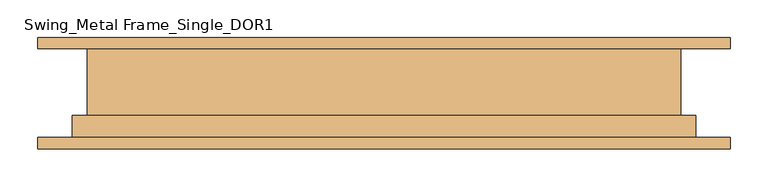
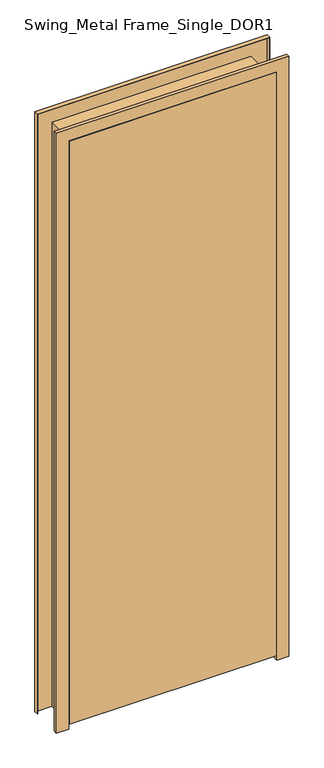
"""IFC4 building model written with IfcOpenShell, lengths in millimetres: door geometry, Swing_Metal Frame_Single_DOR1 : 2040h x 820 (2110x920 STUD)."""

from ifc_helpers import new_model, si_unit, frame, origin, place, context, project, spatial, polyline, outline, extrude, faceted_brep, source, transform, mapped, element, save


def swing_metal_frame_single_dor1_f98e1507(model_context):
    return source(origin(), model_context, "Body", "SolidModel", [
        extrude(outline(polyline([(410.0, -74.0), (-410.0, -74.0), (-410.0, -34.0), (410.0, -34.0), (410.0, -74.0)])), frame((0.0, 0.0, 20.0), z_axis=(0.0, 0.0, 1.0), x_axis=(1.0, 0.0, 0.0)), (0.0, 0.0, 1.0), 2440.0),
        faceted_brep([(-460.0, 74.0, 0.0), (-392.0, 74.0, 0.0), (-392.0, -32.0, 0.0), (-412.0, -32.0, 0.0), (-412.0, -74.0, 0.0), (-460.0, -74.0, 0.0), (-460.0, -59.0, 0.0), (-458.0, -59.0, 0.0), (-458.0, -72.0, 0.0), (-414.0, -72.0, 0.0), (-414.0, -30.0, 0.0), (-394.0, -30.0, 0.0), (-394.0, 72.0, 0.0), (-458.0, 72.0, 0.0), (-458.0, 59.0, 0.0), (-460.0, 59.0, 0.0), (-460.0, 59.0, 2510.0), (-460.0, 74.0, 2510.0), (-458.0, 59.0, 2508.0), (458.0, 59.0, 2508.0), (458.0, 59.0, 0.0), (460.0, 59.0, 0.0), (460.0, 59.0, 2510.0), (-458.0, 72.0, 2508.0), (-394.0, 72.0, 2444.0), (394.0, 72.0, 2444.0), (394.0, 72.0, 0.0), (458.0, 72.0, 0.0), (458.0, 72.0, 2508.0), (-394.0, -30.0, 2444.0), (-414.0, -30.0, 2464.0), (414.0, -30.0, 2464.0), (414.0, -30.0, 0.0), (394.0, -30.0, 0.0), (394.0, -30.0, 2444.0), (-414.0, -72.0, 2464.0), (-458.0, -72.0, 2508.0), (458.0, -72.0, 2508.0), (458.0, -72.0, 0.0), (414.0, -72.0, 0.0), (414.0, -72.0, 2464.0), (-458.0, -59.0, 2508.0), (-460.0, -59.0, 2510.0), (460.0, -59.0, 2510.0), (460.0, -59.0, 0.0), (458.0, -59.0, 0.0), (458.0, -59.0, 2508.0), (-460.0, -74.0, 2510.0), (-412.0, -74.0, 2462.0), (412.0, -74.0, 2462.0), (412.0, -74.0, 0.0), (460.0, -74.0, 0.0), (460.0, -74.0, 2510.0), (-412.0, -32.0, 2462.0), (-392.0, -32.0, 2442.0), (392.0, -32.0, 2442.0), (392.0, -32.0, 0.0), (412.0, -32.0, 0.0), (412.0, -32.0, 2462.0), (-392.0, 74.0, 2442.0), (460.0, 74.0, 2510.0), (460.0, 74.0, 0.0), (392.0, 74.0, 0.0), (392.0, 74.0, 2442.0)], [[[0, 1, 2, 3, 4, 5, 6, 7, 8, 9, 10, 11, 12, 13, 14, 15]], [[15, 16, 17, 0]], [[14, 18, 19, 20, 21, 22, 16, 15]], [[13, 23, 18, 14]], [[12, 24, 25, 26, 27, 28, 23, 13]], [[11, 29, 24, 12]], [[10, 30, 31, 32, 33, 34, 29, 11]], [[9, 35, 30, 10]], [[8, 36, 37, 38, 39, 40, 35, 9]], [[7, 41, 36, 8]], [[6, 42, 43, 44, 45, 46, 41, 7]], [[5, 47, 42, 6]], [[4, 48, 49, 50, 51, 52, 47, 5]], [[3, 53, 48, 4]], [[2, 54, 55, 56, 57, 58, 53, 3]], [[1, 59, 54, 2]], [[0, 17, 60, 61, 62, 63, 59, 1]], [[22, 21, 61, 60]], [[61, 21, 20, 27, 26, 33, 32, 39, 38, 45, 44, 51, 50, 57, 56, 62]], [[28, 27, 20, 19]], [[34, 33, 26, 25]], [[40, 39, 32, 31]], [[46, 45, 38, 37]], [[52, 51, 44, 43]], [[58, 57, 50, 49]], [[63, 62, 56, 55]], [[16, 22, 60, 17]], [[23, 28, 19, 18]], [[29, 34, 25, 24]], [[35, 40, 31, 30]], [[41, 46, 37, 36]], [[47, 52, 43, 42]], [[53, 58, 49, 48]], [[59, 63, 55, 54]]]),
    ])


if __name__ == "__main__":
    model = new_model("IFC4")
    model_context = context("Model", 3, world=origin())
    ifc_project = project(units=[si_unit("LENGTHUNIT", "METRE", prefix="MILLI")], contexts=[model_context])
    site = spatial("IfcSite", under=ifc_project)
    building = spatial("IfcBuilding", under=site)
    placement = place(None, origin())
    swing_metal_frame_single_dor1_shape = swing_metal_frame_single_dor1_f98e1507(model_context)
    element("IfcDoor", 1, ObjectType="Swing_Metal Frame_Single_DOR1 : 2040h x 820 (2110x920 STUD)", at=placement, inside=building, context=model_context, shape_type="MappedRepresentation", body=[
        mapped(swing_metal_frame_single_dor1_shape, transform((0.0, 0.0, 0.0), x_axis=(1.0, 0.0, 0.0), y_axis=(0.0, 1.0, 0.0), z_axis=(0.0, 0.0, 1.0))),
    ])
    save(model, "model.ifc")
